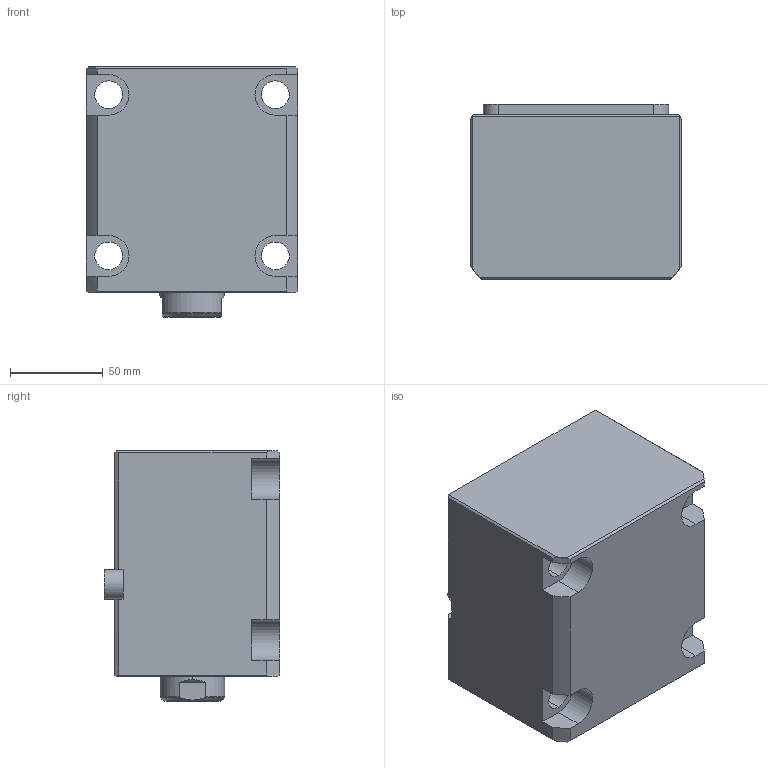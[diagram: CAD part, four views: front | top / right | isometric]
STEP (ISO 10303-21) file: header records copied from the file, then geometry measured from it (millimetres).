
FILE_DESCRIPTION (( 'STEP AP214' ), '1' );
FILE_NAME ('chtb-lam63x55n_asm.STEP', '2018-05-22T03:10:17', ( 'Windows' ), ( 'Microsoft' ), 'SwSTEP 2.0', 'SolidWorks 2015', '' );
FILE_SCHEMA (( 'AUTOMOTIVE_DESIGN' ));
Length unit declared in the file: millimetre
Products named in the file (5): CHTB-LAM63X55NBT; CHTB-LA63PJ; CHTB63X55NHSG; CHTB-63QG; chtb-lam63x55n_asm
Assembly tree (4 placements, depth 2):
  chtb-lam63x55n_asm
    CHTB-63QG
    CHTB63X55NHSG
    CHTB-LA63PJ
    CHTB-LAM63X55NBT
Bounding box: 114 x 94.5 x 135 mm (x, y, z)
Volume: 1045152.4 mm3; surface area: 154521.2 mm2
Topology: 4 solids, 4 shells, 183 faces, 539 edges, 366 vertices
Faces by surface type: cylinder 99, plane 55, bspline 13, cone 8, torus 8
Entity records: 19040 total; most frequent: CARTESIAN_POINT 14352, ORIENTED_EDGE 1066, DIRECTION 788, EDGE_CURVE 533, VERTEX_POINT 366, AXIS2_PLACEMENT_3D 291, LINE 206, VECTOR 206
